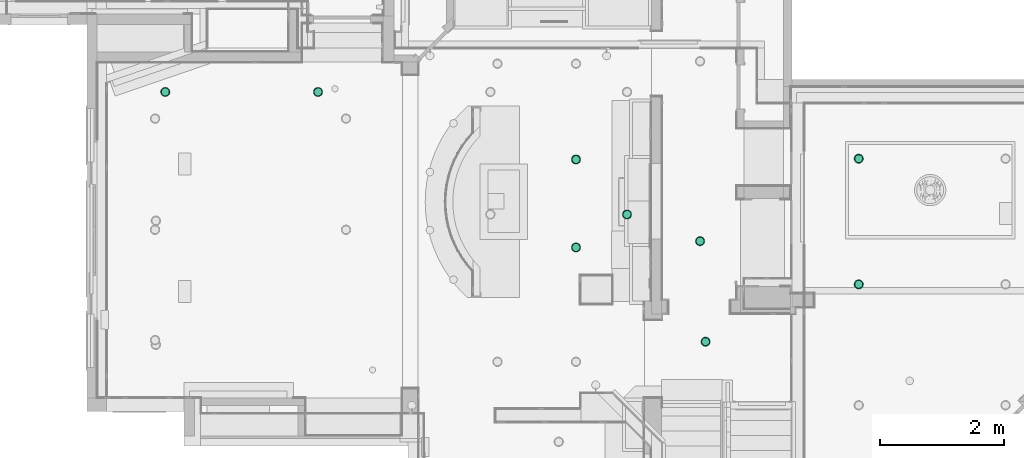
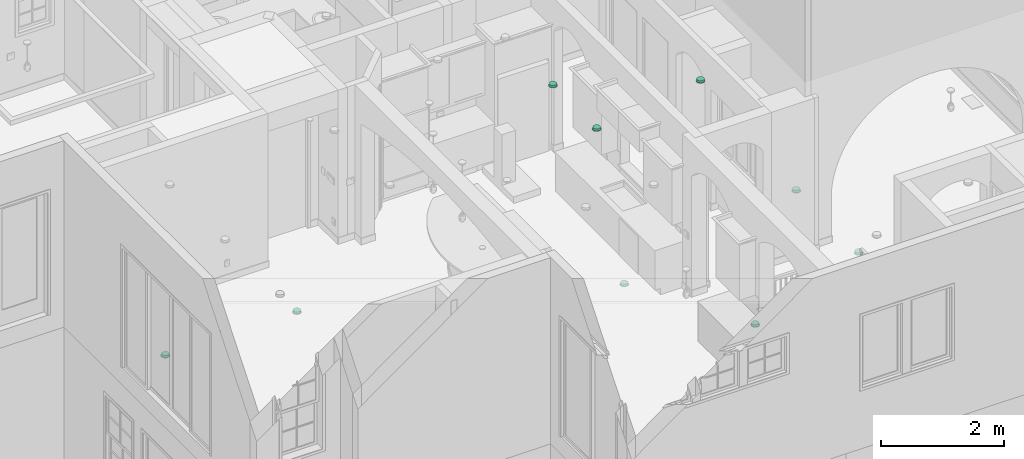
# One storey, part 43 of 81: 9 flow terminals.
"""IFC2X3 building model written with IfcOpenShell, lengths in feet."""

from ifc_helpers import new_model, entity, si_unit, converted_unit, derived_unit, direction, frame, origin, place, context, subcontext, project, spatial, faceted_brep, source, transform, mapped, material, material_list, type_object, type_shapes, element, save


model = new_model("IFC2X3")

# Units and contexts
model_context = context("Model", 3, precision=0.0001, world=origin(), true_north=direction((6.12303176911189e-17, 1.0)))
body_context = subcontext(model_context, "Body", "Model", "MODEL_VIEW")
ifc_project = project(units=[converted_unit("LENGTHUNIT", "FOOT", entity("IfcRatioMeasure", 0.3048), si_unit("LENGTHUNIT", "METRE"), dimensions=[1, 0, 0, 0, 0, 0, 0]), converted_unit("AREAUNIT", "SQUARE FOOT", entity("IfcRatioMeasure", 0.09290304), si_unit("AREAUNIT", "SQUARE_METRE"), dimensions=[2, 0, 0, 0, 0, 0, 0]), converted_unit("VOLUMEUNIT", "CUBIC FOOT", entity("IfcRatioMeasure", 0.028316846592), si_unit("VOLUMEUNIT", "CUBIC_METRE"), dimensions=[3, 0, 0, 0, 0, 0, 0]), converted_unit("PLANEANGLEUNIT", "DEGREE", entity("IfcRatioMeasure", 0.0174532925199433), si_unit("PLANEANGLEUNIT", "RADIAN"), dimensions=[0, 0, 0, 0, 0, 0, 0]), si_unit("MASSUNIT", "GRAM", prefix="KILO"), derived_unit("MASSDENSITYUNIT", [(si_unit("MASSUNIT", "GRAM", prefix="KILO"), 1), (si_unit("LENGTHUNIT", "METRE"), -3)]), derived_unit("MOMENTOFINERTIAUNIT", [(si_unit("LENGTHUNIT", "METRE"), 4)]), si_unit("TIMEUNIT", "SECOND"), si_unit("FREQUENCYUNIT", "HERTZ"), si_unit("THERMODYNAMICTEMPERATUREUNIT", "DEGREE_CELSIUS"), derived_unit("THERMALTRANSMITTANCEUNIT", [(si_unit("MASSUNIT", "GRAM", prefix="KILO"), 1), (si_unit("THERMODYNAMICTEMPERATUREUNIT", "KELVIN"), -1), (si_unit("TIMEUNIT", "SECOND"), -3)]), derived_unit("VOLUMETRICFLOWRATEUNIT", [(si_unit("LENGTHUNIT", "METRE"), 3), (si_unit("TIMEUNIT", "SECOND"), -1)]), si_unit("ELECTRICCURRENTUNIT", "AMPERE"), si_unit("ELECTRICVOLTAGEUNIT", "VOLT"), si_unit("POWERUNIT", "WATT"), si_unit("FORCEUNIT", "NEWTON"), si_unit("ILLUMINANCEUNIT", "LUX"), si_unit("LUMINOUSFLUXUNIT", "LUMEN"), si_unit("LUMINOUSINTENSITYUNIT", "CANDELA"), derived_unit("USERDEFINED", [(si_unit("MASSUNIT", "GRAM", prefix="KILO"), -1), (si_unit("LENGTHUNIT", "METRE"), -2), (si_unit("TIMEUNIT", "SECOND"), 3), (si_unit("LUMINOUSFLUXUNIT", "LUMEN"), 1)]), derived_unit("LINEARVELOCITYUNIT", [(si_unit("LENGTHUNIT", "METRE"), 1), (si_unit("TIMEUNIT", "SECOND"), -1)]), si_unit("PRESSUREUNIT", "PASCAL"), derived_unit("USERDEFINED", [(si_unit("LENGTHUNIT", "METRE"), -2), (si_unit("MASSUNIT", "GRAM", prefix="KILO"), 1), (si_unit("TIMEUNIT", "SECOND"), -2)]), derived_unit("LINEARFORCEUNIT", [(si_unit("MASSUNIT", "GRAM", prefix="KILO"), 1), (si_unit("LENGTHUNIT", "METRE"), 1), (si_unit("TIMEUNIT", "SECOND"), -2), (si_unit("LENGTHUNIT", "METRE"), -1)]), derived_unit("PLANARFORCEUNIT", [(si_unit("MASSUNIT", "GRAM", prefix="KILO"), 1), (si_unit("LENGTHUNIT", "METRE"), 1), (si_unit("TIMEUNIT", "SECOND"), -2), (si_unit("LENGTHUNIT", "METRE"), -2)])], contexts=[model_context])

# Site, building, storey
site_placement = place(None, origin())
site = spatial("IfcSite", under=ifc_project, at=site_placement, Name="Default", CompositionType="ELEMENT")
building_placement = place(site_placement, origin())
building = spatial("IfcBuilding", under=site, at=building_placement, CompositionType="ELEMENT")
storey_placement = place(building_placement, origin())
storey = spatial("IfcBuildingStorey", under=building, at=storey_placement, Name="First floor", CompositionType="ELEMENT", Elevation=0.0)

# Flow terminals
ifc_material_1 = material(Name="Default New Material")
ifc_material_2 = material(Name="Glass, White, High Luminance")
ifc_material_list_1 = material_list([ifc_material_1, ifc_material_2])
ifc_material_list_2 = material_list([ifc_material_1, ifc_material_2])
light_fixture_type = type_object("IfcLightFixtureType", Name="M_Recessed Lamp - Round - LED:Light 2", PredefinedType="NOTDEFINED", material=ifc_material_list_2)
shared_shape = source(origin(), body_context, "Body", "Brep", [
    faceted_brep([(-0.124999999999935, 0.216506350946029, 0.0208333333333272), (-0.176776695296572, 0.176776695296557, 0.0208333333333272), (-0.0833333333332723, 0.144337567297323, 0.0208333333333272), (-0.0431365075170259, 0.160987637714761, 0.0208333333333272), (-0.0647047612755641, 0.241481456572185, 0.0208333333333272), (-0.117851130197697, 0.117851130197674, 0.0208333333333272), (-0.216506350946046, 0.12499999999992, 0.0208333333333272), (-0.144337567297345, 0.0833333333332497, 0.0208333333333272), (-0.160987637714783, 0.0431365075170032, 0.0208333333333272), (-0.241481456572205, 0.0647047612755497, 0.0208333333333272), (-0.166666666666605, 0.0, 0.0208333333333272), (-0.249999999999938, 0.0, 0.0208333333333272), (-0.160987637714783, -0.0431365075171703, 0.0208333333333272), (-0.241481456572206, -0.0647047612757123, 0.0208333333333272), (-0.144337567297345, -0.0833333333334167, 0.0208333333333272), (-0.216506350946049, -0.125000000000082, 0.0208333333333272), (-0.117851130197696, -0.117851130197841, 0.0208333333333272), (-0.176776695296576, -0.176776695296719, 0.0208333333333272), (-0.0833333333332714, -0.14433756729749, 0.0208333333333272), (-0.12499999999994, -0.216506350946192, 0.0208333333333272), (-0.0431365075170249, -0.160987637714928, 0.0208333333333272), (-0.0647047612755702, -0.24148145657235, 0.0208333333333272), (0.0, -0.16666666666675, 0.0208333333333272), (0.0, -0.250000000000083, 0.0208333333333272), (0.0431365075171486, -0.160987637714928, 0.0208333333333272), (0.0647047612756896, -0.241481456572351, 0.0208333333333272), (0.0833333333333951, -0.144337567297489, 0.0208333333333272), (0.12500000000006, -0.216506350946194, 0.0208333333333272), (0.11785113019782, -0.117851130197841, 0.0208333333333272), (0.176776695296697, -0.176776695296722, 0.0208333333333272), (0.144337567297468, -0.0833333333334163, 0.0208333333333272), (0.21650635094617, -0.125000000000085, 0.0208333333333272), (0.241481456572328, -0.0647047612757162, 0.0208333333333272), (0.160987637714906, -0.0431365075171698, 0.0208333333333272), (0.250000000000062, 0.0, 0.0208333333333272), (0.166666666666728, 0.0, 0.0208333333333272), (0.241481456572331, 0.06470476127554, 0.0208333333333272), (0.160987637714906, 0.0431365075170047, 0.0208333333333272), (0.216506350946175, 0.124999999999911, 0.0208333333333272), (0.144337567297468, 0.0833333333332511, 0.0208333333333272), (0.176776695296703, 0.176776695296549, 0.0208333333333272), (0.117851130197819, 0.117851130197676, 0.0208333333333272), (0.125000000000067, 0.216506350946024, 0.0208333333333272), (0.0833333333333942, 0.144337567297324, 0.0208333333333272), (0.0647047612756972, 0.241481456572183, 0.0208333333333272), (0.0431365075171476, 0.160987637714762, 0.0208333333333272), (0.0, 0.249999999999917, 0.0208333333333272), (0.0, 0.166666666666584, 0.0208333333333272), (-0.12499999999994, -0.216506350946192, 0.0), (-0.176776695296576, -0.176776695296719, 0.0), (-0.0833333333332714, -0.14433756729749, 0.0), (-0.0431365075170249, -0.160987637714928, 0.0), (-0.0647047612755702, -0.24148145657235, 0.0), (-0.117851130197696, -0.117851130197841, 0.0), (-0.216506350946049, -0.125000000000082, 0.0), (-0.144337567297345, -0.0833333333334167, 0.0), (-0.160987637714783, -0.0431365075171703, 0.0), (-0.241481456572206, -0.0647047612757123, 0.0), (-0.166666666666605, 0.0, 0.0), (-0.249999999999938, 0.0, 0.0), (-0.160987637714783, 0.0431365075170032, 0.0), (-0.241481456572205, 0.0647047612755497, 0.0), (-0.144337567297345, 0.0833333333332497, 0.0), (-0.216506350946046, 0.12499999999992, 0.0), (-0.117851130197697, 0.117851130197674, 0.0), (-0.176776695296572, 0.176776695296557, 0.0), (-0.0833333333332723, 0.144337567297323, 0.0), (-0.124999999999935, 0.216506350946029, 0.0), (-0.0431365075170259, 0.160987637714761, 0.0), (-0.0647047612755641, 0.241481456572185, 0.0), (0.0, 0.166666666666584, 0.0), (0.0, 0.249999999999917, 0.0), (0.0431365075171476, 0.160987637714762, 0.0), (0.0647047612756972, 0.241481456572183, 0.0), (0.0833333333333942, 0.144337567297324, 0.0), (0.125000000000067, 0.216506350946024, 0.0), (0.117851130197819, 0.117851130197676, 0.0), (0.176776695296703, 0.176776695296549, 0.0), (0.144337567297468, 0.0833333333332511, 0.0), (0.216506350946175, 0.124999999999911, 0.0), (0.241481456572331, 0.06470476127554, 0.0), (0.160987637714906, 0.0431365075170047, 0.0), (0.250000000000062, 0.0, 0.0), (0.166666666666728, 0.0, 0.0), (0.241481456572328, -0.0647047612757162, 0.0), (0.160987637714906, -0.0431365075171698, 0.0), (0.21650635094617, -0.125000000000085, 0.0), (0.144337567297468, -0.0833333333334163, 0.0), (0.176776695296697, -0.176776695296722, 0.0), (0.11785113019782, -0.117851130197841, 0.0), (0.12500000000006, -0.216506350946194, 0.0), (0.0833333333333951, -0.144337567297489, 0.0), (0.0647047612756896, -0.241481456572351, 0.0), (0.0431365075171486, -0.160987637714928, 0.0), (0.0, -0.250000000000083, 0.0), (0.0, -0.16666666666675, 0.0)], [[[0, 1, 2]], [[0, 2, 3]], [[3, 4, 0]], [[2, 1, 5]], [[6, 5, 1]], [[7, 5, 6]], [[8, 7, 6]], [[8, 6, 9]], [[8, 9, 10]], [[10, 9, 11]], [[12, 10, 11]], [[12, 11, 13]], [[14, 12, 13]], [[14, 13, 15]], [[16, 14, 15]], [[15, 17, 16]], [[17, 18, 16]], [[18, 17, 19]], [[18, 19, 20]], [[21, 20, 19]], [[20, 21, 22]], [[22, 21, 23]], [[23, 24, 22]], [[24, 23, 25]], [[24, 25, 26]], [[27, 26, 25]], [[27, 28, 26]], [[27, 29, 28]], [[30, 28, 29]], [[31, 30, 29]], [[32, 30, 31]], [[33, 30, 32]], [[33, 32, 34]], [[34, 35, 33]], [[36, 35, 34]], [[36, 37, 35]], [[37, 36, 38]], [[39, 37, 38]], [[39, 38, 40]], [[39, 40, 41]], [[40, 42, 41]], [[41, 42, 43]], [[43, 42, 44]], [[44, 45, 43]], [[46, 45, 44]], [[4, 47, 46]], [[45, 46, 47]], [[4, 3, 47]], [[48, 49, 50]], [[48, 50, 51]], [[51, 52, 48]], [[50, 49, 53]], [[54, 53, 49]], [[55, 53, 54]], [[56, 55, 54]], [[56, 54, 57]], [[56, 57, 58]], [[58, 57, 59]], [[60, 58, 59]], [[60, 59, 61]], [[62, 60, 61]], [[62, 61, 63]], [[64, 62, 63]], [[63, 65, 64]], [[65, 66, 64]], [[66, 65, 67]], [[66, 67, 68]], [[69, 68, 67]], [[68, 69, 70]], [[70, 69, 71]], [[71, 72, 70]], [[72, 71, 73]], [[72, 73, 74]], [[75, 74, 73]], [[75, 76, 74]], [[75, 77, 76]], [[78, 76, 77]], [[79, 78, 77]], [[80, 78, 79]], [[81, 78, 80]], [[81, 80, 82]], [[82, 83, 81]], [[84, 83, 82]], [[84, 85, 83]], [[85, 84, 86]], [[87, 85, 86]], [[87, 86, 88]], [[87, 88, 89]], [[88, 90, 89]], [[89, 90, 91]], [[91, 90, 92]], [[92, 93, 91]], [[94, 93, 92]], [[52, 95, 94]], [[93, 94, 95]], [[52, 51, 95]], [[10, 58, 60, 8]], [[8, 60, 62, 7]], [[2, 5, 64, 66]], [[62, 64, 5, 7]], [[3, 2, 66, 68]], [[70, 47, 3, 68]], [[45, 72, 74, 43]], [[43, 74, 76, 41]], [[37, 39, 78, 81]], [[76, 78, 39, 41]], [[35, 37, 81, 83]], [[45, 47, 70, 72]], [[35, 83, 85, 33]], [[33, 85, 87, 30]], [[26, 28, 89, 91]], [[87, 89, 28, 30]], [[24, 26, 91, 93]], [[95, 22, 24, 93]], [[20, 51, 50, 18]], [[18, 50, 53, 16]], [[12, 14, 55, 56]], [[53, 55, 14, 16]], [[10, 12, 56, 58]], [[20, 22, 95, 51]], [[57, 13, 11, 59]], [[54, 15, 13, 57]], [[19, 17, 49, 48]], [[54, 49, 17, 15]], [[21, 19, 48, 52]], [[23, 21, 52, 94]], [[92, 25, 23, 94]], [[90, 27, 25, 92]], [[31, 29, 88, 86]], [[90, 88, 29, 27]], [[32, 31, 86, 84]], [[34, 32, 84, 82]], [[80, 36, 34, 82]], [[79, 38, 36, 80]], [[42, 40, 77, 75]], [[79, 77, 40, 38]], [[44, 42, 75, 73]], [[46, 44, 73, 71]], [[69, 4, 46, 71]], [[67, 0, 4, 69]], [[6, 1, 65, 63]], [[67, 65, 1, 0]], [[9, 6, 63, 61]], [[11, 9, 61, 59]]]),
    faceted_brep([(0.0431365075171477, -0.160987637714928, 0.0208333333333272), (0.0833333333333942, -0.14433756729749, 0.0208333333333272), (0.117851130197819, -0.117851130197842, 0.0208333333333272), (0.144337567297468, -0.0833333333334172, 0.0208333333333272), (0.160987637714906, -0.0431365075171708, 0.0208333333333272), (0.166666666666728, 0.0, 0.0208333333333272), (0.160987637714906, 0.0431365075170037, 0.0208333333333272), (0.144337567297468, 0.0833333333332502, 0.0208333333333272), (0.11785113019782, 0.117851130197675, 0.0208333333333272), (0.0833333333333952, 0.144337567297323, 0.0208333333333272), (0.0431365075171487, 0.160987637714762, 0.0208333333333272), (0.0, 0.166666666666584, 0.0208333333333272), (-0.0431365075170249, 0.160987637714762, 0.0208333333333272), (-0.0833333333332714, 0.144337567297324, 0.0208333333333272), (-0.117851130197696, 0.117851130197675, 0.0208333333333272), (-0.144337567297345, 0.0833333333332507, 0.0208333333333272), (-0.160987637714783, 0.0431365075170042, 0.0208333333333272), (-0.166666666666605, 0.0, 0.0208333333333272), (-0.160987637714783, -0.0431365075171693, 0.0208333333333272), (-0.144337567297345, -0.0833333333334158, 0.0208333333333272), (-0.117851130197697, -0.117851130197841, 0.0208333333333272), (-0.0833333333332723, -0.144337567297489, 0.0208333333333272), (-0.0431365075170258, -0.160987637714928, 0.0208333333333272), (0.0, -0.16666666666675, 0.0208333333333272), (0.0431365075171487, 0.160987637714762, 0.0), (0.0833333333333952, 0.144337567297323, 0.0), (0.11785113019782, 0.117851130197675, 0.0), (0.144337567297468, 0.0833333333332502, 0.0), (0.160987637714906, 0.0431365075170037, 0.0), (0.166666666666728, 0.0, 0.0), (0.160987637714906, -0.0431365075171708, 0.0), (0.144337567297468, -0.0833333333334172, 0.0), (0.117851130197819, -0.117851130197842, 0.0), (0.0833333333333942, -0.14433756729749, 0.0), (0.0431365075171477, -0.160987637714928, 0.0), (0.0, -0.16666666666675, 0.0), (-0.0431365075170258, -0.160987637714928, 0.0), (-0.0833333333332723, -0.144337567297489, 0.0), (-0.117851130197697, -0.117851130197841, 0.0), (-0.144337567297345, -0.0833333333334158, 0.0), (-0.160987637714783, -0.0431365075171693, 0.0), (-0.166666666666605, 0.0, 0.0), (-0.160987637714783, 0.0431365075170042, 0.0), (-0.144337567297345, 0.0833333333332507, 0.0), (-0.117851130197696, 0.117851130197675, 0.0), (-0.0833333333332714, 0.144337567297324, 0.0), (-0.0431365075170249, 0.160987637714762, 0.0), (0.0, 0.166666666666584, 0.0)], [[[0, 1, 2, 3, 4, 5, 6, 7, 8, 9, 10, 11, 12, 13, 14, 15, 16, 17, 18, 19, 20, 21, 22, 23]], [[24, 25, 26, 27, 28, 29, 30, 31, 32, 33, 34, 35, 36, 37, 38, 39, 40, 41, 42, 43, 44, 45, 46, 47]], [[40, 18, 17, 41]], [[39, 19, 18, 40]], [[21, 20, 38, 37]], [[39, 38, 20, 19]], [[22, 21, 37, 36]], [[23, 22, 36, 35]], [[34, 0, 23, 35]], [[33, 1, 0, 34]], [[3, 2, 32, 31]], [[33, 32, 2, 1]], [[4, 3, 31, 30]], [[5, 4, 30, 29]], [[28, 6, 5, 29]], [[27, 7, 6, 28]], [[9, 8, 26, 25]], [[27, 26, 8, 7]], [[10, 9, 25, 24]], [[11, 10, 24, 47]], [[46, 12, 11, 47]], [[45, 13, 12, 46]], [[15, 14, 44, 43]], [[45, 44, 14, 13]], [[16, 15, 43, 42]], [[17, 16, 42, 41]]]),
    faceted_brep([(0.0, -0.16666666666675, -0.104166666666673), (0.0431365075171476, -0.160987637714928, -0.104166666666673), (0.0833333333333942, -0.14433756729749, -0.104166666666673), (0.117851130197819, -0.117851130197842, -0.104166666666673), (0.144337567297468, -0.0833333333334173, -0.104166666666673), (0.160987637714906, -0.0431365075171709, -0.104166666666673), (0.166666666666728, 0.0, -0.104166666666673), (0.160987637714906, 0.0431365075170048, -0.104166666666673), (0.144337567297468, 0.0833333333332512, -0.104166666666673), (0.117851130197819, 0.117851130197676, -0.104166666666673), (0.0833333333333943, 0.144337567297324, -0.104166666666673), (0.0431365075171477, 0.160987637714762, -0.104166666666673), (0.0, 0.166666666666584, -0.104166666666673), (-0.0431365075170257, 0.160987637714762, -0.104166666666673), (-0.0833333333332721, 0.144337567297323, -0.104166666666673), (-0.117851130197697, 0.117851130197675, -0.104166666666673), (-0.144337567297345, 0.0833333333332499, -0.104166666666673), (-0.160987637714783, 0.0431365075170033, -0.104166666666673), (-0.166666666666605, 0.0, -0.104166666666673), (-0.160987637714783, -0.0431365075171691, -0.104166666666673), (-0.144337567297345, -0.0833333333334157, -0.104166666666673), (-0.117851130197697, -0.11785113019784, -0.104166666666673), (-0.0833333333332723, -0.144337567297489, -0.104166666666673), (-0.0431365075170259, -0.160987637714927, -0.104166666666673), (0.0, 0.20833333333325, -0.125000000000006), (0.0539206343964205, 0.201234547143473, -0.125000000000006), (0.104166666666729, 0.180421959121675, -0.125000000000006), (0.147313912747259, 0.147313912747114, -0.125000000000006), (0.18042195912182, 0.104166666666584, -0.125000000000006), (0.201234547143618, 0.0539206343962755, -0.125000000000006), (0.208333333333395, 0.0, -0.125000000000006), (0.201234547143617, -0.0539206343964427, -0.125000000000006), (0.180421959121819, -0.104166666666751, -0.125000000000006), (0.147313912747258, -0.147313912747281, -0.125000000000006), (0.104166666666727, -0.180421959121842, -0.125000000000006), (0.0539206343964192, -0.201234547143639, -0.125000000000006), (0.0, -0.208333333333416, -0.125000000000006), (-0.0539206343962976, -0.201234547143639, -0.125000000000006), (-0.104166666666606, -0.180421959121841, -0.125000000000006), (-0.147313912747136, -0.14731391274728, -0.125000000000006), (-0.180421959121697, -0.104166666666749, -0.125000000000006), (-0.201234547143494, -0.0539206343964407, -0.125000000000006), (-0.208333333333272, 0.0, -0.125000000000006), (-0.201234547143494, 0.0539206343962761, -0.125000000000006), (-0.180421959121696, 0.104166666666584, -0.125000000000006), (-0.147313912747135, 0.147313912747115, -0.125000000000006), (-0.104166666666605, 0.180421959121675, -0.125000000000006), (-0.0539206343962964, 0.201234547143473, -0.125000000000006), (-0.201234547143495, -0.0539206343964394, -0.104166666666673), (-0.201234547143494, -0.0539206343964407, 0.0), (-0.208333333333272, 0.0, 0.0), (-0.208333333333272, 0.0, -0.104166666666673), (-0.180421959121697, -0.104166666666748, -0.104166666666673), (-0.180421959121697, -0.104166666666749, 0.0), (-0.104166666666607, -0.18042195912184, -0.104166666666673), (-0.104166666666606, -0.180421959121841, 0.0), (-0.147313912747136, -0.14731391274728, 0.0), (-0.147313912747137, -0.147313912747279, -0.104166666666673), (-0.0539206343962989, -0.201234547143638, -0.104166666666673), (-0.0539206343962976, -0.201234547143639, 0.0), (0.0, -0.208333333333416, -0.104166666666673), (0.0, -0.208333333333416, 0.0), (0.053920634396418, -0.201234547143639, -0.104166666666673), (0.0539206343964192, -0.201234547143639, 0.0), (0.104166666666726, -0.180421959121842, -0.104166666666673), (0.104166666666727, -0.180421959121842, 0.0), (0.180421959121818, -0.104166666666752, -0.104166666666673), (0.180421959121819, -0.104166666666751, 0.0), (0.147313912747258, -0.147313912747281, 0.0), (0.147313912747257, -0.147313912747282, -0.104166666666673), (0.201234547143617, -0.0539206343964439, -0.104166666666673), (0.201234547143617, -0.0539206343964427, 0.0), (0.208333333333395, 0.0, -0.104166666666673), (0.208333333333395, 0.0, 0.0), (0.201234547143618, 0.0539206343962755, -0.104166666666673), (0.201234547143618, 0.0539206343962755, 0.0), (0.18042195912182, 0.104166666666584, -0.104166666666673), (0.18042195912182, 0.104166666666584, 0.0), (0.104166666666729, 0.180421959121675, -0.104166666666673), (0.104166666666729, 0.180421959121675, 0.0), (0.147313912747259, 0.147313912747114, 0.0), (0.147313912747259, 0.147313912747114, -0.104166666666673), (0.0539206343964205, 0.201234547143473, -0.104166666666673), (0.0539206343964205, 0.201234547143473, 0.0), (0.0, 0.20833333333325, -0.104166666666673), (0.0, 0.20833333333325, 0.0), (-0.0539206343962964, 0.201234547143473, -0.104166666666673), (-0.0539206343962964, 0.201234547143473, 0.0), (-0.104166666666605, 0.180421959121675, -0.104166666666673), (-0.104166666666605, 0.180421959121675, 0.0), (-0.180421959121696, 0.104166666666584, -0.104166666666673), (-0.180421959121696, 0.104166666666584, 0.0), (-0.147313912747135, 0.147313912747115, 0.0), (-0.147313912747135, 0.147313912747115, -0.104166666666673), (-0.201234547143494, 0.0539206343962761, -0.104166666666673), (-0.201234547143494, 0.0539206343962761, 0.0), (-0.0833333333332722, 0.144337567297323, 0.0), (-0.0431365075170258, 0.160987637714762, 0.0), (-0.117851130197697, 0.117851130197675, 0.0), (-0.144337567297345, 0.0833333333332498, 0.0), (-0.160987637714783, 0.0431365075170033, 0.0), (-0.166666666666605, 0.0, 0.0), (-0.160987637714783, -0.0431365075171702, 0.0), (-0.144337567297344, -0.0833333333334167, 0.0), (-0.117851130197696, -0.117851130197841, 0.0), (-0.0833333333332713, -0.14433756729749, 0.0), (-0.0431365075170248, -0.160987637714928, 0.0), (0.0, -0.16666666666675, 0.0), (0.0431365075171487, -0.160987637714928, 0.0), (0.0833333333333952, -0.144337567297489, 0.0), (0.11785113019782, -0.117851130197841, 0.0), (0.144337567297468, -0.0833333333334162, 0.0), (0.160987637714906, -0.0431365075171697, 0.0), (0.166666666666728, 0.0, 0.0), (0.160987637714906, 0.0431365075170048, 0.0), (0.144337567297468, 0.0833333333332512, 0.0), (0.117851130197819, 0.117851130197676, 0.0), (0.0833333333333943, 0.144337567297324, 0.0), (0.0431365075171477, 0.160987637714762, 0.0), (0.0, 0.166666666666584, 0.0)], [[[0, 1, 2, 3, 4, 5, 6, 7, 8, 9, 10, 11, 12, 13, 14, 15, 16, 17, 18, 19, 20, 21, 22, 23]], [[24, 25, 26, 27, 28, 29, 30, 31, 32, 33, 34, 35, 36, 37, 38, 39, 40, 41, 42, 43, 44, 45, 46, 47]], [[41, 48, 49, 50, 51, 42]], [[40, 52, 53, 49, 48, 41]], [[54, 55, 56, 57, 39, 38]], [[40, 39, 57, 56, 53, 52]], [[58, 59, 55, 54, 38, 37]], [[60, 61, 59, 58, 37, 36]], [[35, 62, 63, 61, 60, 36]], [[34, 64, 65, 63, 62, 35]], [[66, 67, 68, 69, 33, 32]], [[34, 33, 69, 68, 65, 64]], [[70, 71, 67, 66, 32, 31]], [[72, 73, 71, 70, 31, 30]], [[29, 74, 75, 73, 72, 30]], [[28, 76, 77, 75, 74, 29]], [[78, 79, 80, 81, 27, 26]], [[28, 27, 81, 80, 77, 76]], [[82, 83, 79, 78, 26, 25]], [[84, 85, 83, 82, 25, 24]], [[47, 86, 87, 85, 84, 24]], [[46, 88, 89, 87, 86, 47]], [[90, 91, 92, 93, 45, 44]], [[46, 45, 93, 92, 89, 88]], [[94, 95, 91, 90, 44, 43]], [[51, 50, 95, 94, 43, 42]], [[89, 92, 96]], [[89, 96, 97]], [[97, 87, 89]], [[96, 92, 98]], [[91, 98, 92]], [[99, 98, 91]], [[100, 99, 91]], [[100, 91, 95]], [[100, 95, 101]], [[101, 95, 50]], [[102, 101, 50]], [[102, 50, 49]], [[103, 102, 49]], [[103, 49, 53]], [[104, 103, 53]], [[53, 56, 104]], [[56, 105, 104]], [[105, 56, 55]], [[105, 55, 106]], [[59, 106, 55]], [[106, 59, 107]], [[107, 59, 61]], [[61, 108, 107]], [[108, 61, 63]], [[108, 63, 109]], [[65, 109, 63]], [[65, 110, 109]], [[65, 68, 110]], [[111, 110, 68]], [[67, 111, 68]], [[71, 111, 67]], [[112, 111, 71]], [[112, 71, 73]], [[73, 113, 112]], [[75, 113, 73]], [[75, 114, 113]], [[114, 75, 77]], [[115, 114, 77]], [[115, 77, 80]], [[115, 80, 116]], [[80, 79, 116]], [[116, 79, 117]], [[117, 79, 83]], [[83, 118, 117]], [[85, 118, 83]], [[87, 119, 85]], [[85, 119, 118]], [[87, 97, 119]], [[113, 6, 5, 112]], [[112, 5, 4, 111]], [[109, 110, 3, 2]], [[4, 3, 110, 111]], [[108, 109, 2, 1]], [[0, 107, 108, 1]], [[104, 105, 22, 21]], [[23, 22, 105, 106]], [[102, 103, 20, 19]], [[104, 21, 20, 103]], [[102, 19, 18, 101]], [[0, 23, 106, 107]], [[101, 18, 17, 100]], [[100, 17, 16, 99]], [[96, 98, 15, 14]], [[16, 15, 98, 99]], [[97, 96, 14, 13]], [[12, 119, 97, 13]], [[118, 11, 10, 117]], [[117, 10, 9, 116]], [[114, 115, 8, 7]], [[9, 8, 115, 116]], [[113, 114, 7, 6]], [[118, 119, 12, 11]]]),
])
type_shapes(light_fixture_type, [shared_shape])
flow_terminal_1_placement = place(storey_placement, frame((23.9166666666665, 23.9167540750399, 8.41666666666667), z_axis=(0.0, 0.0, -1.0), x_axis=(1.0, 0.0, 0.0)))
element("IfcFlowTerminal", 1, at=flow_terminal_1_placement, inside=storey, type_object=light_fixture_type, material=ifc_material_list_1, Name="M_Recessed Lamp - Round - LED:Light 2", ObjectType="M_Recessed Lamp - Round - LED:Light 2", context=body_context, shape_type="MappedRepresentation", body=[
    mapped(shared_shape, transform((0.0, 0.0, 0.0), scale=1.0)),
])
ifc_material_list_3 = material_list([ifc_material_1, ifc_material_2])
flow_terminal_2_placement = place(storey_placement, frame((23.9166666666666, 17.2500874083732, 8.41666666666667), z_axis=(0.0, 0.0, -1.0), x_axis=(1.0, 0.0, 0.0)))
element("IfcFlowTerminal", 2, at=flow_terminal_2_placement, inside=storey, type_object=light_fixture_type, material=ifc_material_list_3, Name="M_Recessed Lamp - Round - LED:Light 2", ObjectType="M_Recessed Lamp - Round - LED:Light 2", context=body_context, shape_type="MappedRepresentation", body=[
    mapped(shared_shape, transform((0.0, 0.0, 0.0), scale=1.0)),
])
ifc_material_list_4 = material_list([ifc_material_1, ifc_material_2])
flow_terminal_3_placement = place(storey_placement, frame((15.7916666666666, 14.2083333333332, 8.41666666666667), z_axis=(0.0, 0.0, -1.0), x_axis=(1.0, 0.0, 0.0)))
element("IfcFlowTerminal", 3, at=flow_terminal_3_placement, inside=storey, type_object=light_fixture_type, material=ifc_material_list_4, Name="M_Recessed Lamp - Round - LED:Light 2", ObjectType="M_Recessed Lamp - Round - LED:Light 2", context=body_context, shape_type="MappedRepresentation", body=[
    mapped(shared_shape, transform((0.0, 0.0, 0.0), scale=1.0)),
])
ifc_material_list_5 = material_list([ifc_material_1, ifc_material_2])
flow_terminal_4_placement = place(storey_placement, frame((11.6249999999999, 20.9583333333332, 8.41666666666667), z_axis=(0.0, 0.0, -1.0), x_axis=(1.0, 0.0, 0.0)))
element("IfcFlowTerminal", 4, at=flow_terminal_4_placement, inside=storey, type_object=light_fixture_type, material=ifc_material_list_5, Name="M_Recessed Lamp - Round - LED:Light 2", ObjectType="M_Recessed Lamp - Round - LED:Light 2", context=body_context, shape_type="MappedRepresentation", body=[
    mapped(shared_shape, transform((0.0, 0.0, 0.0), scale=1.0)),
])
ifc_material_list_6 = material_list([ifc_material_1, ifc_material_2])
flow_terminal_5_placement = place(storey_placement, frame((-4.77083333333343, 27.4583333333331, 8.41666666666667), z_axis=(0.0, 0.0, -1.0), x_axis=(1.0, 0.0, 0.0)))
element("IfcFlowTerminal", 5, at=flow_terminal_5_placement, inside=storey, type_object=light_fixture_type, material=ifc_material_list_6, Name="M_Recessed Lamp - Round - LED:Light 2", ObjectType="M_Recessed Lamp - Round - LED:Light 2", context=body_context, shape_type="MappedRepresentation", body=[
    mapped(shared_shape, transform((0.0, 0.0, 0.0), scale=1.0)),
])
ifc_material_list_7 = material_list([ifc_material_1, ifc_material_2])
flow_terminal_6_placement = place(storey_placement, frame((-12.8750000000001, 27.4583333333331, 8.41666666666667), z_axis=(0.0, 0.0, -1.0), x_axis=(1.0, 0.0, 0.0)))
element("IfcFlowTerminal", 6, at=flow_terminal_6_placement, inside=storey, type_object=light_fixture_type, material=ifc_material_list_7, Name="M_Recessed Lamp - Round - LED:Light 2", ObjectType="M_Recessed Lamp - Round - LED:Light 2", context=body_context, shape_type="MappedRepresentation", body=[
    mapped(shared_shape, transform((0.0, 0.0, 0.0), scale=1.0)),
])
ifc_material_list_8 = material_list([ifc_material_1, ifc_material_2])
flow_terminal_7_placement = place(storey_placement, frame((15.4999840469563, 19.541382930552, 21.1666666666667), z_axis=(0.0, 0.0, -1.0), x_axis=(-1.0, 2.86270945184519e-05, 0.0)))
element("IfcFlowTerminal", 7, at=flow_terminal_7_placement, inside=storey, type_object=light_fixture_type, material=ifc_material_list_8, Name="M_Recessed Lamp - Round - LED:Light 2", ObjectType="M_Recessed Lamp - Round - LED:Light 2", context=body_context, shape_type="MappedRepresentation", body=[
    mapped(shared_shape, transform((0.0, 0.0, 0.0), scale=1.0)),
])
ifc_material_list_9 = material_list([ifc_material_1, ifc_material_2])
flow_terminal_8_placement = place(storey_placement, frame((8.91632952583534, 23.8749999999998, 20.5416666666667), z_axis=(0.0, 0.0, -1.0), x_axis=(1.0, 0.0, 0.0)))
element("IfcFlowTerminal", 8, at=flow_terminal_8_placement, inside=storey, type_object=light_fixture_type, material=ifc_material_list_9, Name="M_Recessed Lamp - Round - LED:Light 2", ObjectType="M_Recessed Lamp - Round - LED:Light 2", context=body_context, shape_type="MappedRepresentation", body=[
    mapped(shared_shape, transform((0.0, 0.0, 0.0), scale=1.0)),
])
ifc_material_list_10 = material_list([ifc_material_1, ifc_material_2])
flow_terminal_9_placement = place(storey_placement, frame((8.91632952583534, 19.2083333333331, 20.5416666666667), z_axis=(0.0, 0.0, -1.0), x_axis=(1.0, 0.0, 0.0)))
element("IfcFlowTerminal", 9, at=flow_terminal_9_placement, inside=storey, type_object=light_fixture_type, material=ifc_material_list_10, Name="M_Recessed Lamp - Round - LED:Light 2", ObjectType="M_Recessed Lamp - Round - LED:Light 2", context=body_context, shape_type="MappedRepresentation", body=[
    mapped(shared_shape, transform((0.0, 0.0, 0.0), scale=1.0)),
])

save(model, "model.ifc")
